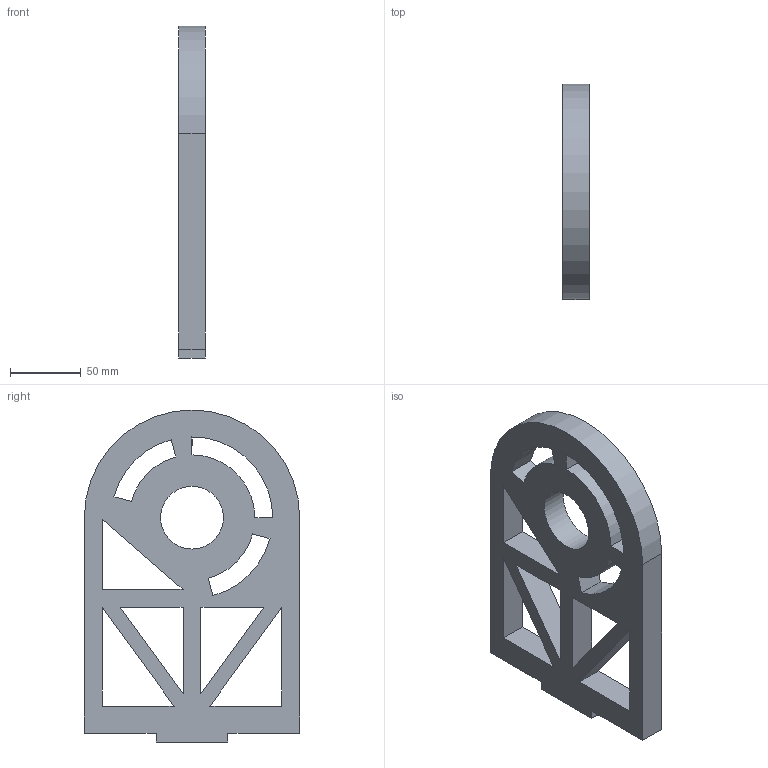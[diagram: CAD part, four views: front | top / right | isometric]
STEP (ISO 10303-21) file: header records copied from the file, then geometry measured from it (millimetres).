
FILE_DESCRIPTION(/* description */ (''),/* implementation_level */ '2;1');
FILE_NAME(/* name */ 'C:\Users\zachr\Desktop\3D printer stuff\Equi Mount Mk2\Adjusting Arms.stp',/* time_stamp */ '2018-03-29T20:15:05-05:00',/* author */ ('zachr'),/* organization */ (''),/* preprocessor_version */ 'ST-DEVELOPER v16.13',/* originating_system */ 'Autodesk Inventor 2018',/* authorisation */ '');
FILE_SCHEMA (('AUTOMOTIVE_DESIGN { 1 0 10303 214 3 1 1 }'));
Length unit declared in the file: inch
Products named in the file (1): Adjusting Arms
Bounding box: 19.05 x 152.4 x 234.95 mm (x, y, z)
Volume: 401385.2 mm3; surface area: 85122.1 mm2
Topology: 1 solids, 1 shells, 38 faces, 125 edges, 105 vertices
Faces by surface type: plane 30, cylinder 8
Full cylindrical faces by diameter (mm): 44.45 x1
Entity records: 1397 total; most frequent: CARTESIAN_POINT 253, ORIENTED_EDGE 214, DIRECTION 207, EDGE_CURVE 107, LINE 91, VECTOR 91, VERTEX_POINT 72, AXIS2_PLACEMENT_3D 58
